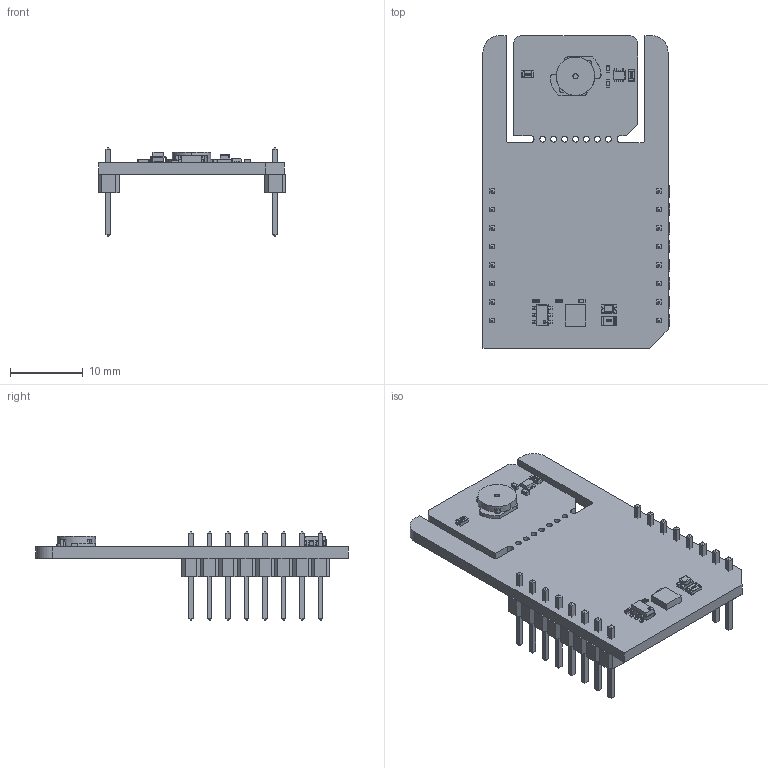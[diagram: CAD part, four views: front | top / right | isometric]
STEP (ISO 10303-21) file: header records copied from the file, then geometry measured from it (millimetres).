
FILE_DESCRIPTION(('Open CASCADE Model'),'2;1');
FILE_NAME('Open CASCADE Shape Model','2025-11-13T11:25:24',('Author'),( 'Open CASCADE'),'Open CASCADE STEP processor 6.8','Open CASCADE 6.8' ,'Unknown');
FILE_SCHEMA(('AUTOMOTIVE_DESIGN { 1 0 10303 214 1 1 1 1 }'));
Length unit declared in the file: millimetre
Products named in the file (35): PCB; Board; U4; User_Library-HVSOF5; U3; 1855457328; Extruded; R2; User_Library-R_0402; JP3; User_Library-R_0603; C3; User_Library-SMD_CAPACITOR0402; C2; R4; R1; User_Library-R_0805; LD1; led_0805_green; C1; R3; U1; 1789419544; U2; User_Library-SOT23-6-2; MBD1; Header_1x8; Free-Models; 1240637040; User_Library-PinHeaderX5-1_PinHeaderX5_Body_1; User_Library-PinHeaderX5-1_PinHeaderX5_Pins_1; AH-11004-180180-T1_912_v1.0
Assembly tree (40 placements, depth 7):
  PCB
    Board
    U4
      User_Library-HVSOF5
    U3
      1855457328
        Extruded
    R2
      User_Library-R_0402
    JP3
      User_Library-R_0603
    C3
      User_Library-SMD_CAPACITOR0402
    C2
      User_Library-SMD_CAPACITOR0402
    R4
      User_Library-R_0402
    R1
      User_Library-R_0805
    LD1
      led_0805_green
    C1
      User_Library-SMD_CAPACITOR0402
    R3
      User_Library-R_0603
    U1
      1789419544
        Extruded
    U2
      User_Library-SOT23-6-2
    MBD1
      Header_1x8  x2
        PCB
          Free-Models
            1240637040  x2
              User_Library-PinHeaderX5-1_PinHeaderX5_Body_1
              User_Library-PinHeaderX5-1_PinHeaderX5_Pins_1
    Free-Models
      AH-11004-180180-T1_912_v1.0
Bounding box: 25.78 x 42.93 x 12.19 mm (x, y, z)
Volume: 2179.2 mm3; surface area: 4000.2 mm2
Topology: 38 solids, 38 shells, 1324 faces, 3365 edges, 2130 vertices
Faces by surface type: plane 987, bspline 184, cylinder 104, sphere 30, cone 19
Full cylindrical faces by diameter (mm): 0.8 x7
Entity records: 32492 total; most frequent: CARTESIAN_POINT 11126, ORIENTED_EDGE 3686, DIRECTION 3096, EDGE_CURVE 1843, LINE 1390, VECTOR 1390, VERTEX_POINT 1190, AXIS2_PLACEMENT_3D 853
